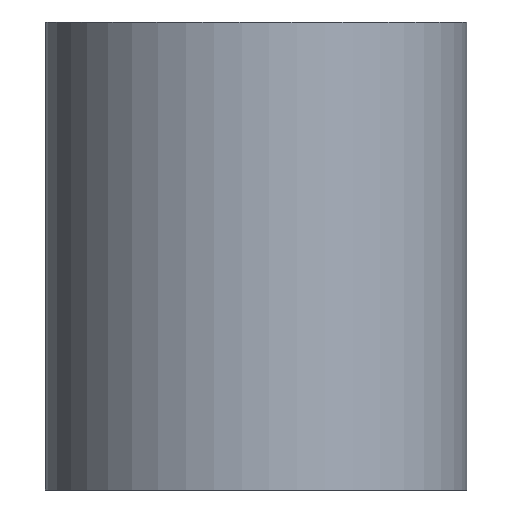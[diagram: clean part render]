
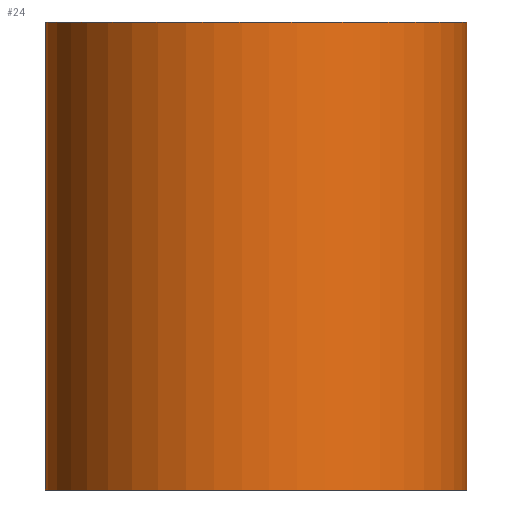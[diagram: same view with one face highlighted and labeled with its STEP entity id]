
A CAD part, left-side view. The second image highlights one B-rep face of the part: STEP entity #24.
In plain terms, the highlighted free-form (B-spline) face has degree [2, 1] with [5, 2] control points.
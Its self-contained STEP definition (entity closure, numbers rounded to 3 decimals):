
#24=ADVANCED_FACE('',(#26),#54,.T.);
#26=FACE_OUTER_BOUND('',#28,.T.);
#28=EDGE_LOOP('',(#30,#31,#32,#33));
#30=ORIENTED_EDGE('',*,*,#41,.T.);
#31=ORIENTED_EDGE('',*,*,#40,.F.);
#32=ORIENTED_EDGE('',*,*,#39,.F.);
#33=ORIENTED_EDGE('',*,*,#38,.T.);
#38=EDGE_CURVE('',#50,#52,#44,.T.);
#39=EDGE_CURVE('',#50,#51,#45,.T.);
#40=EDGE_CURVE('',#51,#53,#46,.T.);
#41=EDGE_CURVE('',#52,#53,#47,.T.);
#44=(
BOUNDED_CURVE()
B_SPLINE_CURVE(2,(#106,#107,#108,#109,#110),.UNSPECIFIED.,.F.,.F.)
B_SPLINE_CURVE_WITH_KNOTS((3,2,3),(0.,155.509,311.018),
 .UNSPECIFIED.)
CURVE()
GEOMETRIC_REPRESENTATION_ITEM()
RATIONAL_B_SPLINE_CURVE((1.,0.707,1.,0.707,1.))
REPRESENTATION_ITEM('')
);
#45=(
BOUNDED_CURVE()
B_SPLINE_CURVE(1,(#111,#112),.UNSPECIFIED.,.F.,.F.)
B_SPLINE_CURVE_WITH_KNOTS((2,2),(0.,220.),.UNSPECIFIED.)
CURVE()
GEOMETRIC_REPRESENTATION_ITEM()
RATIONAL_B_SPLINE_CURVE((1.,1.))
REPRESENTATION_ITEM('')
);
#46=(
BOUNDED_CURVE()
B_SPLINE_CURVE(2,(#113,#114,#115,#116,#117),.UNSPECIFIED.,.F.,.F.)
B_SPLINE_CURVE_WITH_KNOTS((3,2,3),(0.,155.509,311.018),
 .UNSPECIFIED.)
CURVE()
GEOMETRIC_REPRESENTATION_ITEM()
RATIONAL_B_SPLINE_CURVE((1.,0.707,1.,0.707,1.))
REPRESENTATION_ITEM('')
);
#47=(
BOUNDED_CURVE()
B_SPLINE_CURVE(1,(#118,#119),.UNSPECIFIED.,.F.,.F.)
B_SPLINE_CURVE_WITH_KNOTS((2,2),(0.,220.),.UNSPECIFIED.)
CURVE()
GEOMETRIC_REPRESENTATION_ITEM()
RATIONAL_B_SPLINE_CURVE((1.,1.))
REPRESENTATION_ITEM('')
);
#50=VERTEX_POINT('',#102);
#51=VERTEX_POINT('',#103);
#52=VERTEX_POINT('',#104);
#53=VERTEX_POINT('',#105);
#54=(
BOUNDED_SURFACE()
B_SPLINE_SURFACE(2,1,((#82,#83),(#84,#85),(#86,#87),(#88,#89),(#90,#91)),
 .UNSPECIFIED.,.F.,.F.,.F.)
B_SPLINE_SURFACE_WITH_KNOTS((3,2,3),(2,2),(0.,155.509,311.018),
(0.,220.),.UNSPECIFIED.)
GEOMETRIC_REPRESENTATION_ITEM()
RATIONAL_B_SPLINE_SURFACE(((1.,1.),(0.707,0.707),
(1.,1.),(0.707,0.707),(1.,1.)))
REPRESENTATION_ITEM('')
SURFACE()
);
#82=CARTESIAN_POINT('',(0.,99.,0.));
#83=CARTESIAN_POINT('',(0.,99.,220.));
#84=CARTESIAN_POINT('',(-99.,99.,0.));
#85=CARTESIAN_POINT('',(-99.,99.,220.));
#86=CARTESIAN_POINT('',(-99.,0.,0.));
#87=CARTESIAN_POINT('',(-99.,0.,220.));
#88=CARTESIAN_POINT('',(-99.,-99.,0.));
#89=CARTESIAN_POINT('',(-99.,-99.,220.));
#90=CARTESIAN_POINT('',(0.,-99.,0.));
#91=CARTESIAN_POINT('',(0.,-99.,220.));
#102=CARTESIAN_POINT('',(0.,99.,0.));
#103=CARTESIAN_POINT('',(0.,99.,220.));
#104=CARTESIAN_POINT('',(0.,-99.,0.));
#105=CARTESIAN_POINT('',(0.,-99.,220.));
#106=CARTESIAN_POINT('',(0.,99.,0.));
#107=CARTESIAN_POINT('',(-99.,99.,0.));
#108=CARTESIAN_POINT('',(-99.,0.,0.));
#109=CARTESIAN_POINT('',(-99.,-99.,0.));
#110=CARTESIAN_POINT('',(0.,-99.,0.));
#111=CARTESIAN_POINT('',(0.,99.,0.));
#112=CARTESIAN_POINT('',(0.,99.,220.));
#113=CARTESIAN_POINT('',(0.,99.,220.));
#114=CARTESIAN_POINT('',(-99.,99.,220.));
#115=CARTESIAN_POINT('',(-99.,0.,220.));
#116=CARTESIAN_POINT('',(-99.,-99.,220.));
#117=CARTESIAN_POINT('',(0.,-99.,220.));
#118=CARTESIAN_POINT('',(0.,-99.,0.));
#119=CARTESIAN_POINT('',(0.,-99.,220.));
